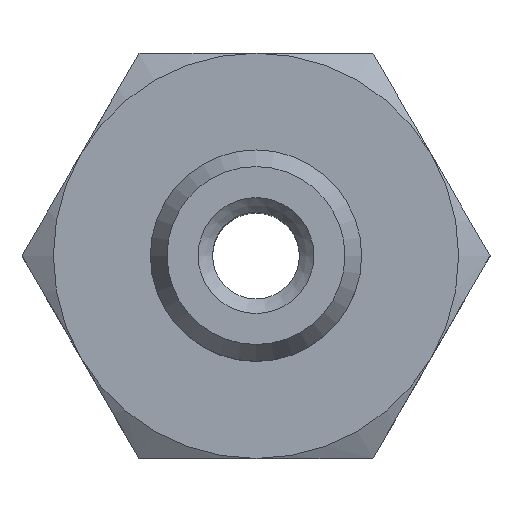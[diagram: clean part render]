
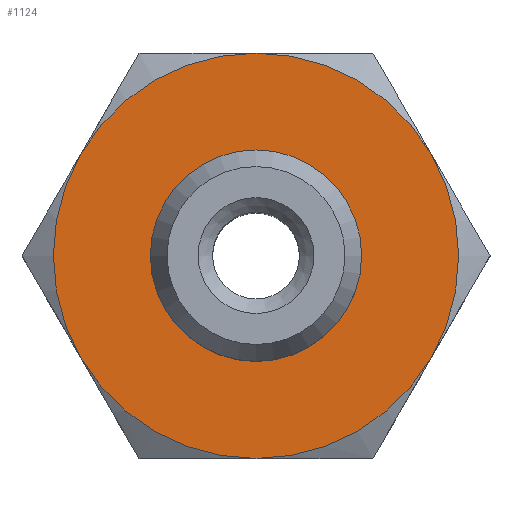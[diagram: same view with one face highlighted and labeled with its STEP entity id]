
A CAD part, top view. The second image highlights one B-rep face of the part: STEP entity #1124.
In plain terms, the highlighted planar face has unit normal (0, 0, 1).
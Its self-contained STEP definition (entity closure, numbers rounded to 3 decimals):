
#425=CARTESIAN_POINT('',(3.65,0.,14.0));
#426=VERTEX_POINT('',#425);
#427=CARTESIAN_POINT('',(0.0,0.,14.0));
#428=DIRECTION('',(0.0,0.0,-1.0));
#429=DIRECTION('',(-1.0,0.0,0.0));
#430=AXIS2_PLACEMENT_3D('',#427,#428,#429);
#431=CIRCLE('',#430,3.65);
#432=EDGE_CURVE('',#426,#426,#431,.T.);
#444=CARTESIAN_POINT('',(0.0,7.0,14.0));
#445=VERTEX_POINT('',#444);
#459=CARTESIAN_POINT('',(-6.062,3.5,14.0));
#460=VERTEX_POINT('',#459);
#474=CARTESIAN_POINT('',(0.0,0.0,14.0));
#475=DIRECTION('',(0.0,0.0,1.0));
#476=DIRECTION('',(0.0,1.0,0.0));
#477=AXIS2_PLACEMENT_3D('',#474,#475,#476);
#478=CIRCLE('',#477,7.);
#479=EDGE_CURVE('',#445,#460,#478,.T.);
#491=CARTESIAN_POINT('',(6.062,3.5,14.0));
#492=VERTEX_POINT('',#491);
#519=CARTESIAN_POINT('',(0.0,0.0,14.0));
#520=DIRECTION('',(0.0,0.0,1.0));
#521=DIRECTION('',(0.0,1.0,0.0));
#522=AXIS2_PLACEMENT_3D('',#519,#520,#521);
#523=CIRCLE('',#522,7.);
#524=EDGE_CURVE('',#492,#445,#523,.T.);
#536=CARTESIAN_POINT('',(6.062,-3.5,14.0));
#537=VERTEX_POINT('',#536);
#564=CARTESIAN_POINT('',(0.0,0.0,14.0));
#565=DIRECTION('',(0.0,0.0,1.0));
#566=DIRECTION('',(0.0,1.0,0.0));
#567=AXIS2_PLACEMENT_3D('',#564,#565,#566);
#568=CIRCLE('',#567,7.);
#569=EDGE_CURVE('',#537,#492,#568,.T.);
#594=CARTESIAN_POINT('',(0.0,-7.,14.0));
#595=VERTEX_POINT('',#594);
#596=CARTESIAN_POINT('',(0.0,0.0,14.0));
#597=DIRECTION('',(0.0,0.0,1.0));
#598=DIRECTION('',(0.0,1.0,0.0));
#599=AXIS2_PLACEMENT_3D('',#596,#597,#598);
#600=CIRCLE('',#599,7.);
#601=EDGE_CURVE('',#595,#537,#600,.T.);
#639=CARTESIAN_POINT('',(-6.062,-3.5,14.0));
#640=VERTEX_POINT('',#639);
#641=CARTESIAN_POINT('',(0.0,0.0,14.0));
#642=DIRECTION('',(0.0,0.0,1.0));
#643=DIRECTION('',(0.0,1.0,0.0));
#644=AXIS2_PLACEMENT_3D('',#641,#642,#643);
#645=CIRCLE('',#644,7.);
#646=EDGE_CURVE('',#640,#595,#645,.T.);
#684=CARTESIAN_POINT('',(0.0,0.0,14.0));
#685=DIRECTION('',(0.0,0.0,1.0));
#686=DIRECTION('',(0.0,1.0,0.0));
#687=AXIS2_PLACEMENT_3D('',#684,#685,#686);
#688=CIRCLE('',#687,7.);
#689=EDGE_CURVE('',#460,#640,#688,.T.);
#1108=CARTESIAN_POINT('',(0.,0.,14.0));
#1109=DIRECTION('',(0.0,0.0,1.0));
#1110=DIRECTION('',(1.0,0.0,0.0));
#1111=AXIS2_PLACEMENT_3D('',#1108,#1109,#1110);
#1112=PLANE('',#1111);
#1113=ORIENTED_EDGE('',*,*,#689,.T.);
#1114=ORIENTED_EDGE('',*,*,#646,.T.);
#1115=ORIENTED_EDGE('',*,*,#601,.T.);
#1116=ORIENTED_EDGE('',*,*,#569,.T.);
#1117=ORIENTED_EDGE('',*,*,#524,.T.);
#1118=ORIENTED_EDGE('',*,*,#479,.T.);
#1119=EDGE_LOOP('',(#1113,#1114,#1115,#1116,#1117,#1118));
#1120=FACE_OUTER_BOUND('',#1119,.T.);
#1121=ORIENTED_EDGE('',*,*,#432,.T.);
#1122=EDGE_LOOP('',(#1121));
#1123=FACE_BOUND('',#1122,.T.);
#1124=ADVANCED_FACE('',(#1120,#1123),#1112,.T.);
